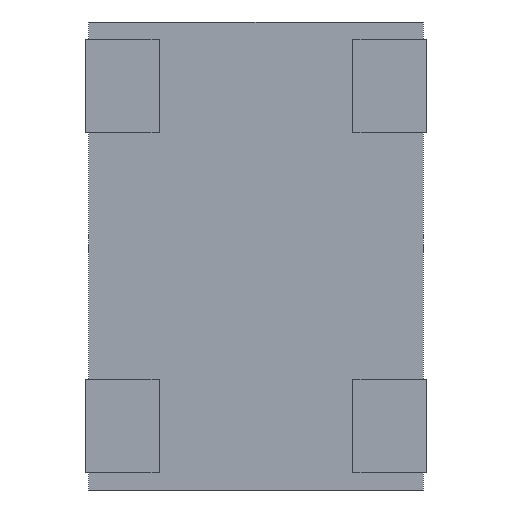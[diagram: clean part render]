
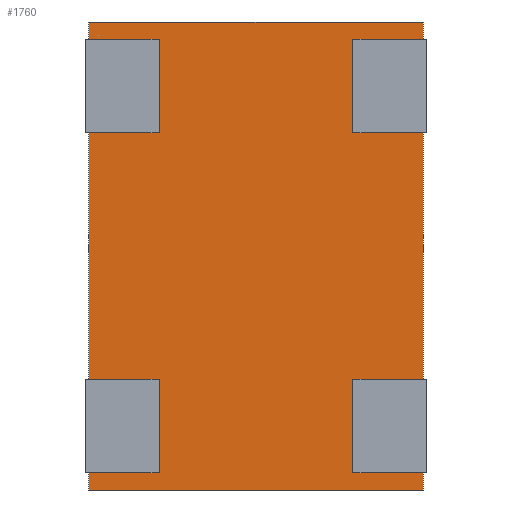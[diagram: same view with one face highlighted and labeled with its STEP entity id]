
A CAD part, front view. The second image highlights one B-rep face of the part: STEP entity #1760.
In plain terms, the highlighted planar face has unit normal (0, -1, 0).
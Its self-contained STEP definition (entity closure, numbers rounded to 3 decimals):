
#1653 = CARTESIAN_POINT ( 'NONE',  ( 2.5, 0.05, 3.5 ) ) ;
#1654 = VERTEX_POINT ( 'NONE', #1653 ) ;
#1655 = CARTESIAN_POINT ( 'NONE',  ( 2.5, 0.05, -3.5 ) ) ;
#1656 = VERTEX_POINT ( 'NONE', #1655 ) ;
#1657 = CARTESIAN_POINT ( 'NONE',  ( 2.5, 0.05, 3.5 ) ) ;
#1658 = DIRECTION ( 'NONE',  ( 0., 0., -1. ) ) ;
#1659 = VECTOR ( 'NONE', #1658, 1000. ) ;
#1660 = LINE ( 'NONE', #1657, #1659 ) ;
#1661 = EDGE_CURVE ( 'NONE', #1654, #1656, #1660, .T. ) ;
#1684 = CARTESIAN_POINT ( 'NONE',  ( -2.5, 0.05, -3.5 ) ) ;
#1685 = VERTEX_POINT ( 'NONE', #1684 ) ;
#1686 = CARTESIAN_POINT ( 'NONE',  ( -2.5, 0.05, -3.5 ) ) ;
#1687 = DIRECTION ( 'NONE',  ( -1., 0., 0. ) ) ;
#1688 = VECTOR ( 'NONE', #1687, 1000. ) ;
#1689 = LINE ( 'NONE', #1686, #1688 ) ;
#1690 = EDGE_CURVE ( 'NONE', #1656, #1685, #1689, .T. ) ;
#1708 = CARTESIAN_POINT ( 'NONE',  ( -2.5, 0.05, 3.5 ) ) ;
#1709 = VERTEX_POINT ( 'NONE', #1708 ) ;
#1710 = CARTESIAN_POINT ( 'NONE',  ( -2.5, 0.05, 3.5 ) ) ;
#1711 = DIRECTION ( 'NONE',  ( 0., 0., 1. ) ) ;
#1712 = VECTOR ( 'NONE', #1711, 1000. ) ;
#1713 = LINE ( 'NONE', #1710, #1712 ) ;
#1714 = EDGE_CURVE ( 'NONE', #1685, #1709, #1713, .T. ) ;
#1732 = CARTESIAN_POINT ( 'NONE',  ( -2.5, 0.05, 3.5 ) ) ;
#1733 = DIRECTION ( 'NONE',  ( 1., 0., 0. ) ) ;
#1734 = VECTOR ( 'NONE', #1733, 1000. ) ;
#1735 = LINE ( 'NONE', #1732, #1734 ) ;
#1736 = EDGE_CURVE ( 'NONE', #1709, #1654, #1735, .T. ) ;
#1749 = ORIENTED_EDGE ( 'NONE', *, *, #1661, .F. ) ;
#1750 = ORIENTED_EDGE ( 'NONE', *, *, #1736, .F. ) ;
#1751 = ORIENTED_EDGE ( 'NONE', *, *, #1714, .F. ) ;
#1752 = ORIENTED_EDGE ( 'NONE', *, *, #1690, .F. ) ;
#1753 = EDGE_LOOP ( 'NONE', ( #1749, #1750, #1751, #1752 ) ) ;
#1754 = FACE_OUTER_BOUND ( 'NONE', #1753, .T. ) ;
#1755 = CARTESIAN_POINT ( 'NONE',  ( 0., 0.05, 0. ) ) ;
#1756 = DIRECTION ( 'NONE',  ( 0., -1., 0. ) ) ;
#1757 = DIRECTION ( 'NONE',  ( 0., 0., -1. ) ) ;
#1758 = AXIS2_PLACEMENT_3D ( 'NONE', #1755, #1756, #1757 ) ;
#1759 = PLANE ( 'NONE', #1758 ) ;
#1760 = ADVANCED_FACE ( 'NONE', ( #1754 ), #1759, .T. ) ;
